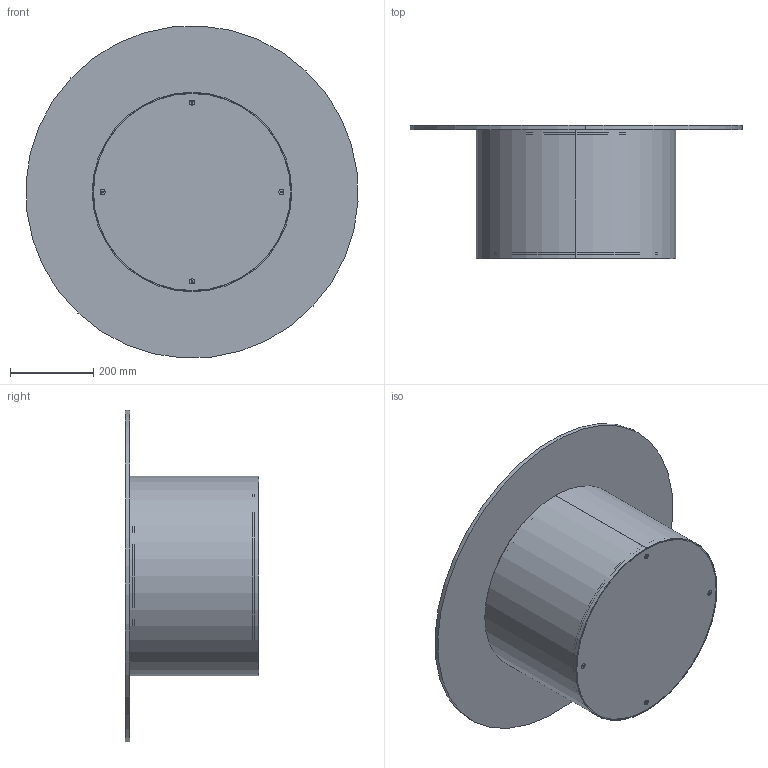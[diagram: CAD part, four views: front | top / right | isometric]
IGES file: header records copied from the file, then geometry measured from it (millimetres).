
Start section: SolidWorks IGES file using analytic representation for surfaces
Global section: file name: Y:\eforma\TECNICO\SOLIDWORKS\E-FORMA\2-TAVOLINI\CILINDRO LOW\02 parts\CL12G.IGS; native system: SolidWorks 2022; preprocessor: SolidWorks 2022; author: eforma.tech; date: 240806.121607; units: millimetre
Bounding box: 798.67 x 320 x 798.67 mm (x, y, z)
Volume: 8539309.1 mm3; surface area: 2720501.6 mm2
Topology: 12 solids, 12 shells, 231 faces, 499 edges, 288 vertices
Faces by surface type: revolution 119, plane 110, bspline 2
